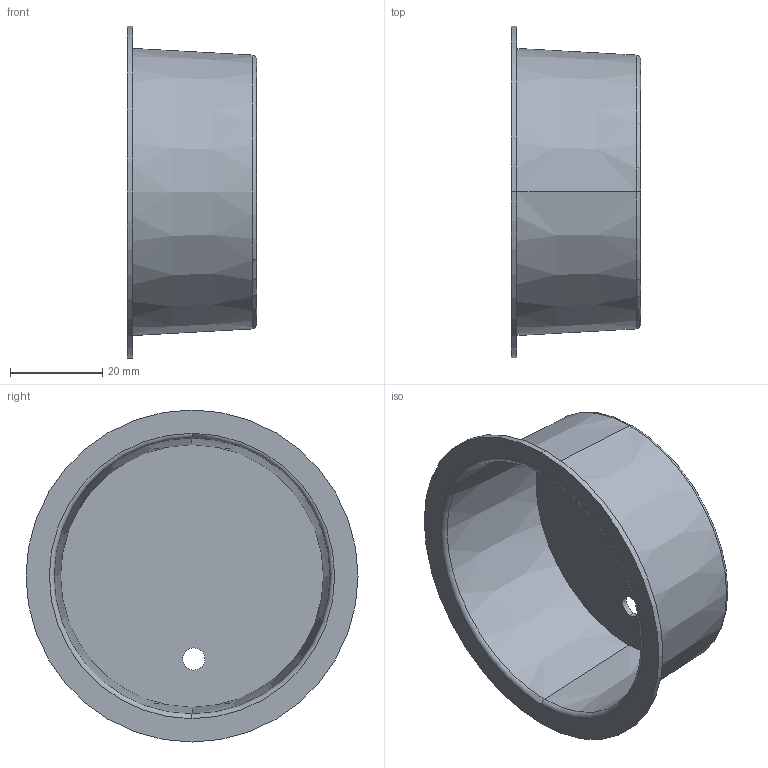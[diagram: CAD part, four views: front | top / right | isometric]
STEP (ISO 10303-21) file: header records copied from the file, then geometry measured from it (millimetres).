
FILE_DESCRIPTION((''),'2;1');
FILE_NAME('VZ75_5','2025-12-30T10:37:50',('niepogodzinskij'),(''),'CREO PARAMETRIC BY PTC INC, 2025010','CREO PARAMETRIC BY PTC INC, 2025010','');
FILE_SCHEMA(('CONFIG_CONTROL_DESIGN'));
Length unit declared in the file: millimetre
Products named in the file (1): VZ75_5
Bounding box: 28 x 72 x 72 mm (x, y, z)
Volume: 10490.9 mm3; surface area: 17750.9 mm2
Topology: 1 solids, 1 shells, 16 faces, 38 edges, 26 vertices
Faces by surface type: cone 4, torus 4, plane 4, cylinder 4
Entity records: 530 total; most frequent: DIRECTION 100, CARTESIAN_POINT 80, ORIENTED_EDGE 76, AXIS2_PLACEMENT_3D 46, EDGE_CURVE 38, CIRCLE 30, VERTEX_POINT 26, EDGE_LOOP 20
